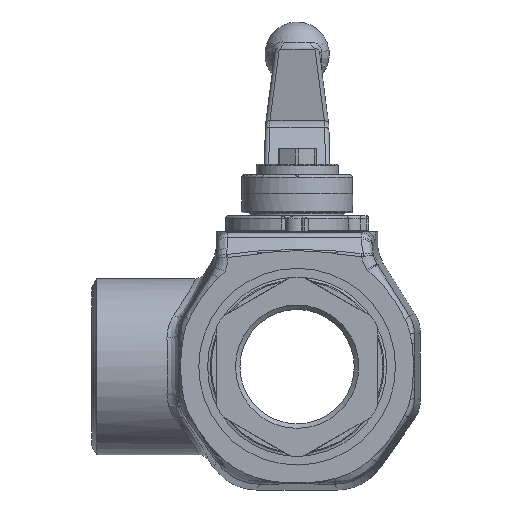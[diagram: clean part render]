
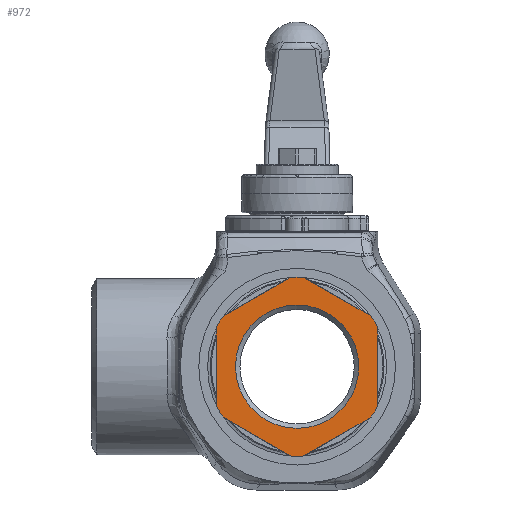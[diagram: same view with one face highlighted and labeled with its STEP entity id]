
A CAD part, front view. The second image highlights one B-rep face of the part: STEP entity #972.
In plain terms, the highlighted planar face has unit normal (0, -1, 0) as drawn and (0, 1, 0) by its records, which use the part's own axes.
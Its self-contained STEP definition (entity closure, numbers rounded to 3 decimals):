
#972 = ADVANCED_FACE( '', ( #2166, #2167 ), #2168, .T. );
#2166 = FACE_BOUND( '', #4578, .T. );
#2167 = FACE_OUTER_BOUND( '', #4579, .T. );
#2168 = PLANE( '', #4580 );
#4578 = EDGE_LOOP( '', ( #9486 ) );
#4579 = EDGE_LOOP( '', ( #9487, #9488, #9489, #9490, #9491, #9492, #9493, #9494, #9495, #9496, #9497, #9498 ) );
#4580 = AXIS2_PLACEMENT_3D( '', #9499, #9500, #9501 );
#9486 = ORIENTED_EDGE( '', *, *, #12783, .T. );
#9487 = ORIENTED_EDGE( '', *, *, #12384, .T. );
#9488 = ORIENTED_EDGE( '', *, *, #12784, .T. );
#9489 = ORIENTED_EDGE( '', *, *, #12261, .T. );
#9490 = ORIENTED_EDGE( '', *, *, #12785, .T. );
#9491 = ORIENTED_EDGE( '', *, *, #12786, .T. );
#9492 = ORIENTED_EDGE( '', *, *, #12787, .T. );
#9493 = ORIENTED_EDGE( '', *, *, #12788, .T. );
#9494 = ORIENTED_EDGE( '', *, *, #12593, .T. );
#9495 = ORIENTED_EDGE( '', *, *, #12789, .T. );
#9496 = ORIENTED_EDGE( '', *, *, #12790, .T. );
#9497 = ORIENTED_EDGE( '', *, *, #12444, .T. );
#9498 = ORIENTED_EDGE( '', *, *, #12791, .T. );
#9499 = CARTESIAN_POINT( '', ( 0., 14.9, 0. ) );
#9500 = DIRECTION( '', ( 0., 1., 0. ) );
#9501 = DIRECTION( '', ( 0., 0., 1. ) );
#12261 = EDGE_CURVE( '', #14033, #14037, #14039, .T. );
#12384 = EDGE_CURVE( '', #14247, #14244, #14248, .T. );
#12444 = EDGE_CURVE( '', #14351, #14348, #14352, .T. );
#12593 = EDGE_CURVE( '', #14585, #14590, #14592, .T. );
#12783 = EDGE_CURVE( '', #14873, #14873, #14874, .T. );
#12784 = EDGE_CURVE( '', #14244, #14033, #14875, .T. );
#12785 = EDGE_CURVE( '', #14037, #14876, #14877, .T. );
#12786 = EDGE_CURVE( '', #14876, #14878, #14879, .T. );
#12787 = EDGE_CURVE( '', #14878, #14880, #14881, .T. );
#12788 = EDGE_CURVE( '', #14880, #14585, #14882, .T. );
#12789 = EDGE_CURVE( '', #14590, #14883, #14884, .T. );
#12790 = EDGE_CURVE( '', #14883, #14351, #14885, .T. );
#12791 = EDGE_CURVE( '', #14348, #14247, #14886, .T. );
#14033 = VERTEX_POINT( '', #17543 );
#14037 = VERTEX_POINT( '', #17548 );
#14039 = CIRCLE( '', #17551, 30.5 );
#14244 = VERTEX_POINT( '', #18046 );
#14247 = VERTEX_POINT( '', #18050 );
#14248 = CIRCLE( '', #18051, 30.5 );
#14348 = VERTEX_POINT( '', #18282 );
#14351 = VERTEX_POINT( '', #18286 );
#14352 = CIRCLE( '', #18287, 30.5 );
#14585 = VERTEX_POINT( '', #18856 );
#14590 = VERTEX_POINT( '', #18866 );
#14592 = LINE( '', #18869, #18870 );
#14873 = VERTEX_POINT( '', #19895 );
#14874 = CIRCLE( '', #19896, 21. );
#14875 = LINE( '', #19897, #19898 );
#14876 = VERTEX_POINT( '', #19899 );
#14877 = LINE( '', #19900, #19901 );
#14878 = VERTEX_POINT( '', #19902 );
#14879 = CIRCLE( '', #19903, 30.5 );
#14880 = VERTEX_POINT( '', #19904 );
#14881 = LINE( '', #19905, #19906 );
#14882 = CIRCLE( '', #19907, 30.5 );
#14883 = VERTEX_POINT( '', #19908 );
#14884 = CIRCLE( '', #19909, 30.5 );
#14885 = LINE( '', #19910, #19911 );
#14886 = LINE( '', #19912, #19913 );
#17543 = CARTESIAN_POINT( '', ( 2.326, 14.9, -30.411 ) );
#17548 = CARTESIAN_POINT( '', ( -2.326, 14.9, -30.411 ) );
#17551 = AXIS2_PLACEMENT_3D( '', #23401, #23402, #23403 );
#18046 = CARTESIAN_POINT( '', ( 25.174, 14.9, -17.22 ) );
#18050 = CARTESIAN_POINT( '', ( 27.5, 14.9, -13.191 ) );
#18051 = AXIS2_PLACEMENT_3D( '', #23557, #23558, #23559 );
#18282 = CARTESIAN_POINT( '', ( 27.5, 14.9, 13.191 ) );
#18286 = CARTESIAN_POINT( '', ( 25.174, 14.9, 17.22 ) );
#18287 = AXIS2_PLACEMENT_3D( '', #23612, #23613, #23614 );
#18856 = CARTESIAN_POINT( '', ( -25.174, 14.9, 17.22 ) );
#18866 = CARTESIAN_POINT( '', ( -2.326, 14.9, 30.411 ) );
#18869 = CARTESIAN_POINT( '', ( -27.5, 14.9, 15.877 ) );
#18870 = VECTOR( '', #23796, 1000. );
#19895 = CARTESIAN_POINT( '', ( 21., 14.9, 0. ) );
#19896 = AXIS2_PLACEMENT_3D( '', #24034, #24035, #24036 );
#19897 = CARTESIAN_POINT( '', ( 27.5, 14.9, -15.877 ) );
#19898 = VECTOR( '', #24037, 1000. );
#19899 = CARTESIAN_POINT( '', ( -25.174, 14.9, -17.22 ) );
#19900 = CARTESIAN_POINT( '', ( 0., 14.9, -31.754 ) );
#19901 = VECTOR( '', #24038, 1000. );
#19902 = CARTESIAN_POINT( '', ( -27.5, 14.9, -13.191 ) );
#19903 = AXIS2_PLACEMENT_3D( '', #24039, #24040, #24041 );
#19904 = CARTESIAN_POINT( '', ( -27.5, 14.9, 13.191 ) );
#19905 = CARTESIAN_POINT( '', ( -27.5, 14.9, -15.877 ) );
#19906 = VECTOR( '', #24042, 1000. );
#19907 = AXIS2_PLACEMENT_3D( '', #24043, #24044, #24045 );
#19908 = CARTESIAN_POINT( '', ( 2.326, 14.9, 30.411 ) );
#19909 = AXIS2_PLACEMENT_3D( '', #24046, #24047, #24048 );
#19910 = CARTESIAN_POINT( '', ( 0., 14.9, 31.754 ) );
#19911 = VECTOR( '', #24049, 1000. );
#19912 = CARTESIAN_POINT( '', ( 27.5, 14.9, 15.877 ) );
#19913 = VECTOR( '', #24050, 1000. );
#23401 = CARTESIAN_POINT( '', ( 0., 14.9, 0. ) );
#23402 = DIRECTION( '', ( 0., 1., 0. ) );
#23403 = DIRECTION( '', ( 1., 0., 0. ) );
#23557 = CARTESIAN_POINT( '', ( 0., 14.9, 0. ) );
#23558 = DIRECTION( '', ( 0., 1., 0. ) );
#23559 = DIRECTION( '', ( 1., 0., 0. ) );
#23612 = CARTESIAN_POINT( '', ( 0., 14.9, 0. ) );
#23613 = DIRECTION( '', ( 0., 1., 0. ) );
#23614 = DIRECTION( '', ( 1., 0., 0. ) );
#23796 = DIRECTION( '', ( 0.866, 0., 0.5 ) );
#24034 = CARTESIAN_POINT( '', ( 0., 14.9, 0. ) );
#24035 = DIRECTION( '', ( 0., -1., 0. ) );
#24036 = DIRECTION( '', ( 1., 0., 0. ) );
#24037 = DIRECTION( '', ( -0.866, 0., -0.5 ) );
#24038 = DIRECTION( '', ( -0.866, 0., 0.5 ) );
#24039 = CARTESIAN_POINT( '', ( 0., 14.9, 0. ) );
#24040 = DIRECTION( '', ( 0., 1., 0. ) );
#24041 = DIRECTION( '', ( 1., 0., 0. ) );
#24042 = DIRECTION( '', ( 0., 0., 1. ) );
#24043 = CARTESIAN_POINT( '', ( 0., 14.9, 0. ) );
#24044 = DIRECTION( '', ( 0., 1., 0. ) );
#24045 = DIRECTION( '', ( 1., 0., 0. ) );
#24046 = CARTESIAN_POINT( '', ( 0., 14.9, 0. ) );
#24047 = DIRECTION( '', ( 0., 1., 0. ) );
#24048 = DIRECTION( '', ( 1., 0., 0. ) );
#24049 = DIRECTION( '', ( 0.866, 0., -0.5 ) );
#24050 = DIRECTION( '', ( 0., 0., -1. ) );
